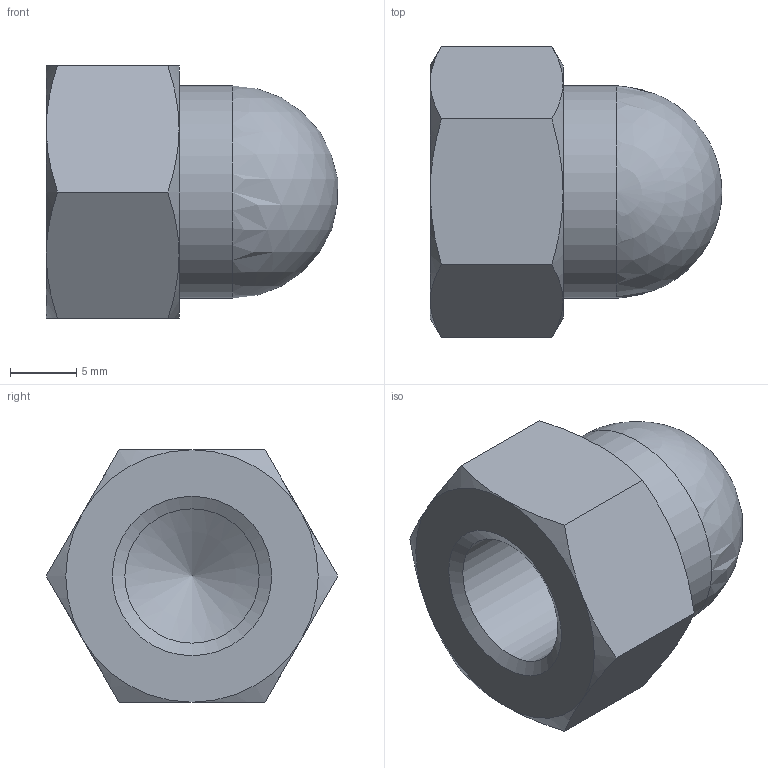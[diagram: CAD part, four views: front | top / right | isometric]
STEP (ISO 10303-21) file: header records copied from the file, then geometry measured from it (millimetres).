
FILE_DESCRIPTION(/* description */ ('6각 둥근캡 너트'),/* implementation_level */ '2;1');
FILE_NAME(/* name */ '',/* time_stamp */ '2024-08-29T13:11:23+09:00',/* author */ ('jhkim'),/* organization */ (''),/* preprocessor_version */ 'ST-DEVELOPER v20',/* originating_system */ 'Autodesk Inventor 2025',/* authorisation */ '');
FILE_SCHEMA (('AUTOMOTIVE_DESIGN { 1 0 10303 214 3 1 1 }'));
Length unit declared in the file: millimetre
Products named in the file (1): 캡너트 M12
Bounding box: 21.94 x 21.94 x 19 mm (x, y, z)
Volume: 3919.5 mm3; surface area: 2045 mm2
Topology: 1 solids, 1 shells, 25 faces, 57 edges, 33 vertices
Faces by surface type: cone 14, plane 8, cylinder 2, sphere 1
Full cylindrical faces by diameter (mm): 10.106 x1, 16 x1
Entity records: 675 total; most frequent: CARTESIAN_POINT 157, ORIENTED_EDGE 104, DIRECTION 98, EDGE_CURVE 52, AXIS2_PLACEMENT_3D 44, VERTEX_POINT 31, EDGE_LOOP 27, FACE_OUTER_BOUND 25
